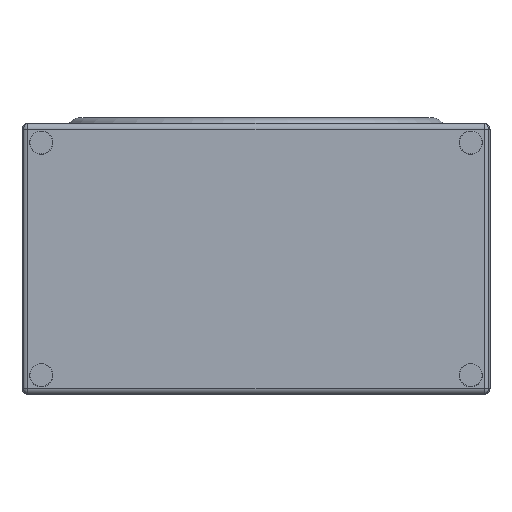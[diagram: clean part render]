
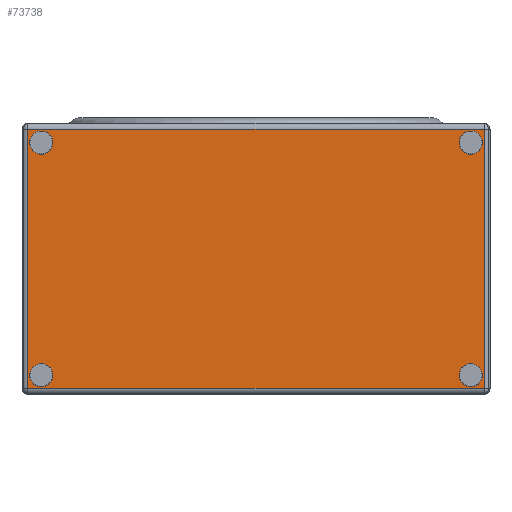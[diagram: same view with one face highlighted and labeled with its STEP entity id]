
A CAD part, front view. The second image highlights one B-rep face of the part: STEP entity #73738.
In plain terms, the highlighted planar face has unit normal (0, -1, 0).
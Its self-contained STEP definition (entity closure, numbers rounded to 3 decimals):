
#2555=FACE_BOUND('',#11623,.T.);
#2556=FACE_BOUND('',#11624,.T.);
#2557=FACE_BOUND('',#11625,.T.);
#2558=FACE_BOUND('',#11626,.T.);
#3757=PLANE('',#79418);
#7014=FACE_OUTER_BOUND('',#11622,.T.);
#11622=EDGE_LOOP('',(#58025,#58026,#58027,#58028));
#11623=EDGE_LOOP('',(#58029));
#11624=EDGE_LOOP('',(#58030));
#11625=EDGE_LOOP('',(#58031));
#11626=EDGE_LOOP('',(#58032));
#15755=CIRCLE('',#79412,7.25);
#15758=CIRCLE('',#79416,7.25);
#15760=CIRCLE('',#79419,7.25);
#15761=CIRCLE('',#79420,7.25);
#20970=LINE('',#114662,#27774);
#20971=LINE('',#114670,#27775);
#20976=LINE('',#114695,#27780);
#20977=LINE('',#114696,#27781);
#27774=VECTOR('',#91658,1000.);
#27775=VECTOR('',#91669,1000.);
#27780=VECTOR('',#91702,1000.);
#27781=VECTOR('',#91703,1000.);
#34534=VERTEX_POINT('',#114654);
#34535=VERTEX_POINT('',#114658);
#34536=VERTEX_POINT('',#114664);
#34537=VERTEX_POINT('',#114668);
#34540=VERTEX_POINT('',#114682);
#34543=VERTEX_POINT('',#114690);
#34544=VERTEX_POINT('',#114697);
#34545=VERTEX_POINT('',#114699);
#43111=EDGE_CURVE('',#34534,#34535,#20970,.T.);
#43115=EDGE_CURVE('',#34536,#34537,#20971,.T.);
#43121=EDGE_CURVE('',#34540,#34540,#15755,.T.);
#43125=EDGE_CURVE('',#34543,#34543,#15758,.T.);
#43127=EDGE_CURVE('',#34537,#34534,#20976,.T.);
#43128=EDGE_CURVE('',#34535,#34536,#20977,.T.);
#43129=EDGE_CURVE('',#34544,#34544,#15760,.T.);
#43130=EDGE_CURVE('',#34545,#34545,#15761,.T.);
#58025=ORIENTED_EDGE('',*,*,#43127,.T.);
#58026=ORIENTED_EDGE('',*,*,#43111,.T.);
#58027=ORIENTED_EDGE('',*,*,#43128,.T.);
#58028=ORIENTED_EDGE('',*,*,#43115,.T.);
#58029=ORIENTED_EDGE('',*,*,#43125,.F.);
#58030=ORIENTED_EDGE('',*,*,#43129,.F.);
#58031=ORIENTED_EDGE('',*,*,#43121,.F.);
#58032=ORIENTED_EDGE('',*,*,#43130,.F.);
#73738=ADVANCED_FACE('',(#7014,#2555,#2556,#2557,#2558),#3757,.F.);
#79412=AXIS2_PLACEMENT_3D('',#114684,#91687,#91688);
#79416=AXIS2_PLACEMENT_3D('',#114692,#91696,#91697);
#79418=AXIS2_PLACEMENT_3D('',#114694,#91700,#91701);
#79419=AXIS2_PLACEMENT_3D('',#114698,#91704,#91705);
#79420=AXIS2_PLACEMENT_3D('',#114700,#91706,#91707);
#91658=DIRECTION('',(0.,0.,-1.));
#91669=DIRECTION('',(0.,0.,1.));
#91687=DIRECTION('center_axis',(0.,-1.,0.));
#91688=DIRECTION('ref_axis',(0.,0.,1.));
#91696=DIRECTION('center_axis',(0.,-1.,0.));
#91697=DIRECTION('ref_axis',(0.,0.,1.));
#91700=DIRECTION('center_axis',(0.,1.,0.));
#91701=DIRECTION('ref_axis',(-1.,0.,0.));
#91702=DIRECTION('',(-1.,0.,0.));
#91703=DIRECTION('',(1.,0.,0.));
#91704=DIRECTION('center_axis',(0.,-1.,0.));
#91705=DIRECTION('ref_axis',(0.,0.,1.));
#91706=DIRECTION('center_axis',(0.,-1.,0.));
#91707=DIRECTION('ref_axis',(0.,0.,1.));
#114654=CARTESIAN_POINT('',(-463.,-600.,538.));
#114658=CARTESIAN_POINT('',(-463.,-600.,12.));
#114662=CARTESIAN_POINT('',(-463.,-600.,550.));
#114664=CARTESIAN_POINT('',(463.,-600.,12.));
#114668=CARTESIAN_POINT('',(463.,-600.,538.));
#114670=CARTESIAN_POINT('',(463.,-600.,550.));
#114682=CARTESIAN_POINT('',(-436.,-600.,31.75));
#114684=CARTESIAN_POINT('Origin',(-436.,-600.,39.));
#114690=CARTESIAN_POINT('',(-436.,-600.,503.75));
#114692=CARTESIAN_POINT('Origin',(-436.,-600.,511.));
#114694=CARTESIAN_POINT('Origin',(475.,-600.,550.));
#114695=CARTESIAN_POINT('',(475.,-600.,538.));
#114696=CARTESIAN_POINT('',(475.,-600.,12.));
#114697=CARTESIAN_POINT('',(436.,-600.,31.75));
#114698=CARTESIAN_POINT('Origin',(436.,-600.,39.));
#114699=CARTESIAN_POINT('',(436.,-600.,503.75));
#114700=CARTESIAN_POINT('Origin',(436.,-600.,511.));
